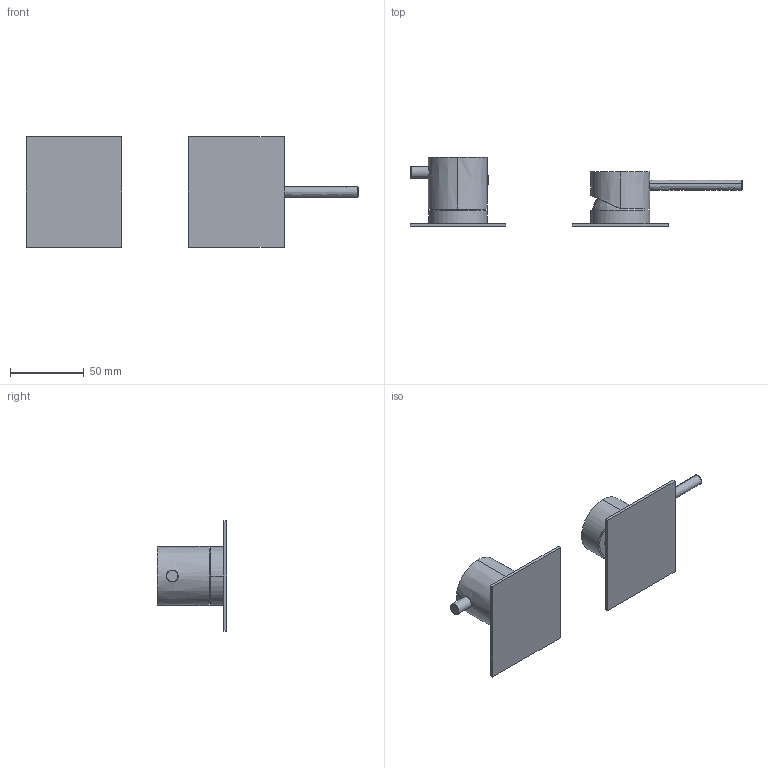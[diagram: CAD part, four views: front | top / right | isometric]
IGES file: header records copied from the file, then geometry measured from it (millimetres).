
Start section:  PTC IGES file: 69563v2.igs
Global section: file name: 69563v2.igs; native system: Creo Parametric by PTC Inc.; preprocessor: 2022014; author: carloff; organization: Unknown; date: 20251120.092710; units: millimetre
Bounding box: 225 x 46.8 x 75 mm (x, y, z)
Surface area: 39208 mm2 (no closed solid volume)
Topology: 0 solids, 0 shells, 87 faces, 386 edges, 384 vertices
Faces by surface type: revolution 56, bspline 31
